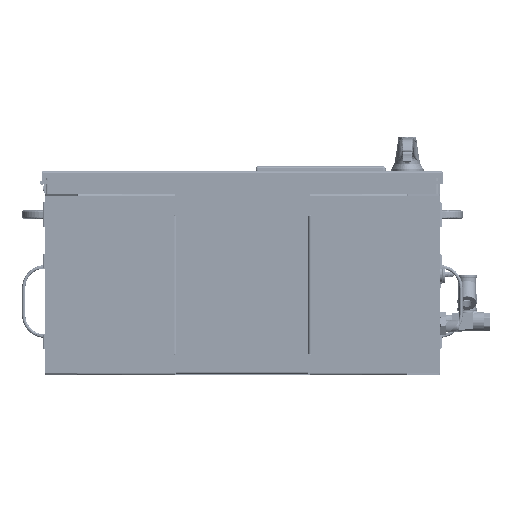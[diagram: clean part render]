
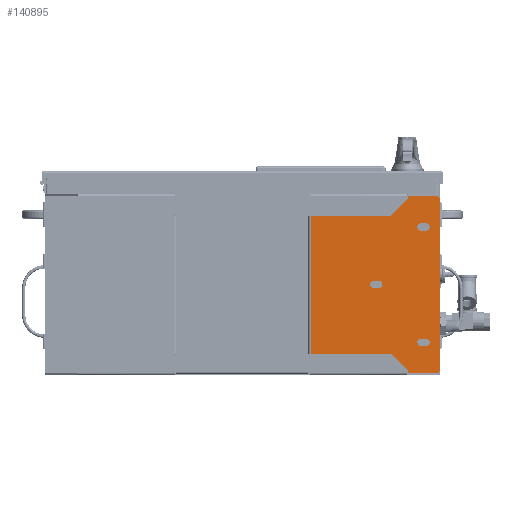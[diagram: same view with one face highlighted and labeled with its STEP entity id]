
A CAD part, front view. The second image highlights one B-rep face of the part: STEP entity #140895.
In plain terms, the highlighted planar face has unit normal (0, -1, 0).
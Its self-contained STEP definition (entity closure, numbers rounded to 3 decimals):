
#8581=FACE_BOUND('',#22103,.T.);
#8582=FACE_BOUND('',#22104,.T.);
#8583=FACE_BOUND('',#22105,.T.);
#14508=FACE_OUTER_BOUND('',#22102,.T.);
#22102=EDGE_LOOP('',(#116978,#116979,#116980,#116981,#116982,#116983,#116984,
#116985,#116986,#116987,#116988,#116989));
#22103=EDGE_LOOP('',(#116990,#116991,#116992,#116993));
#22104=EDGE_LOOP('',(#116994,#116995,#116996,#116997));
#22105=EDGE_LOOP('',(#116998,#116999,#117000,#117001));
#27107=CIRCLE('',#150492,0.25);
#27108=CIRCLE('',#150493,0.25);
#27109=CIRCLE('',#150494,0.219);
#27110=CIRCLE('',#150495,0.219);
#27111=CIRCLE('',#150496,0.219);
#27112=CIRCLE('',#150497,0.219);
#27113=CIRCLE('',#150498,0.219);
#27114=CIRCLE('',#150499,0.219);
#36591=LINE('',#276199,#48832);
#36592=LINE('',#276205,#48833);
#36595=LINE('',#276215,#48836);
#36596=LINE('',#276219,#48837);
#36597=LINE('',#276223,#48838);
#36598=LINE('',#276225,#48839);
#36599=LINE('',#276226,#48840);
#36600=LINE('',#276227,#48841);
#36601=LINE('',#276229,#48842);
#36602=LINE('',#276230,#48843);
#36603=LINE('',#276235,#48844);
#36604=LINE('',#276238,#48845);
#36605=LINE('',#276243,#48846);
#36606=LINE('',#276246,#48847);
#36607=LINE('',#276251,#48848);
#36608=LINE('',#276254,#48849);
#48832=VECTOR('',#177583,39.37);
#48833=VECTOR('',#177590,39.37);
#48836=VECTOR('',#177599,39.37);
#48837=VECTOR('',#177602,39.37);
#48838=VECTOR('',#177605,39.37);
#48839=VECTOR('',#177606,39.37);
#48840=VECTOR('',#177607,39.37);
#48841=VECTOR('',#177608,39.37);
#48842=VECTOR('',#177609,39.37);
#48843=VECTOR('',#177610,39.37);
#48844=VECTOR('',#177613,39.37);
#48845=VECTOR('',#177616,39.37);
#48846=VECTOR('',#177619,39.37);
#48847=VECTOR('',#177622,39.37);
#48848=VECTOR('',#177625,39.37);
#48849=VECTOR('',#177628,39.37);
#62057=VERTEX_POINT('',#276196);
#62058=VERTEX_POINT('',#276198);
#62059=VERTEX_POINT('',#276203);
#62060=VERTEX_POINT('',#276204);
#62063=VERTEX_POINT('',#276213);
#62064=VERTEX_POINT('',#276214);
#62065=VERTEX_POINT('',#276216);
#62066=VERTEX_POINT('',#276218);
#62067=VERTEX_POINT('',#276220);
#62068=VERTEX_POINT('',#276222);
#62069=VERTEX_POINT('',#276224);
#62070=VERTEX_POINT('',#276228);
#62071=VERTEX_POINT('',#276231);
#62072=VERTEX_POINT('',#276232);
#62073=VERTEX_POINT('',#276234);
#62074=VERTEX_POINT('',#276236);
#62075=VERTEX_POINT('',#276239);
#62076=VERTEX_POINT('',#276240);
#62077=VERTEX_POINT('',#276242);
#62078=VERTEX_POINT('',#276244);
#62079=VERTEX_POINT('',#276247);
#62080=VERTEX_POINT('',#276248);
#62081=VERTEX_POINT('',#276250);
#62082=VERTEX_POINT('',#276252);
#81350=EDGE_CURVE('',#62058,#62057,#36591,.T.);
#81353=EDGE_CURVE('',#62059,#62060,#36592,.T.);
#81358=EDGE_CURVE('',#62063,#62064,#36595,.T.);
#81359=EDGE_CURVE('',#62064,#62065,#27107,.T.);
#81360=EDGE_CURVE('',#62065,#62066,#36596,.T.);
#81361=EDGE_CURVE('',#62066,#62067,#27108,.T.);
#81362=EDGE_CURVE('',#62067,#62068,#36597,.T.);
#81363=EDGE_CURVE('',#62068,#62069,#36598,.T.);
#81364=EDGE_CURVE('',#62069,#62059,#36599,.F.);
#81365=EDGE_CURVE('',#62060,#62058,#36600,.T.);
#81366=EDGE_CURVE('',#62057,#62070,#36601,.F.);
#81367=EDGE_CURVE('',#62070,#62063,#36602,.T.);
#81368=EDGE_CURVE('',#62071,#62072,#27109,.T.);
#81369=EDGE_CURVE('',#62073,#62071,#36603,.T.);
#81370=EDGE_CURVE('',#62074,#62073,#27110,.T.);
#81371=EDGE_CURVE('',#62072,#62074,#36604,.T.);
#81372=EDGE_CURVE('',#62075,#62076,#27111,.T.);
#81373=EDGE_CURVE('',#62077,#62075,#36605,.T.);
#81374=EDGE_CURVE('',#62078,#62077,#27112,.T.);
#81375=EDGE_CURVE('',#62076,#62078,#36606,.T.);
#81376=EDGE_CURVE('',#62079,#62080,#27113,.T.);
#81377=EDGE_CURVE('',#62081,#62079,#36607,.T.);
#81378=EDGE_CURVE('',#62082,#62081,#27114,.T.);
#81379=EDGE_CURVE('',#62080,#62082,#36608,.T.);
#116978=ORIENTED_EDGE('',*,*,#81358,.T.);
#116979=ORIENTED_EDGE('',*,*,#81359,.T.);
#116980=ORIENTED_EDGE('',*,*,#81360,.T.);
#116981=ORIENTED_EDGE('',*,*,#81361,.T.);
#116982=ORIENTED_EDGE('',*,*,#81362,.T.);
#116983=ORIENTED_EDGE('',*,*,#81363,.T.);
#116984=ORIENTED_EDGE('',*,*,#81364,.T.);
#116985=ORIENTED_EDGE('',*,*,#81353,.T.);
#116986=ORIENTED_EDGE('',*,*,#81365,.T.);
#116987=ORIENTED_EDGE('',*,*,#81350,.T.);
#116988=ORIENTED_EDGE('',*,*,#81366,.T.);
#116989=ORIENTED_EDGE('',*,*,#81367,.T.);
#116990=ORIENTED_EDGE('',*,*,#81368,.F.);
#116991=ORIENTED_EDGE('',*,*,#81369,.F.);
#116992=ORIENTED_EDGE('',*,*,#81370,.F.);
#116993=ORIENTED_EDGE('',*,*,#81371,.F.);
#116994=ORIENTED_EDGE('',*,*,#81372,.F.);
#116995=ORIENTED_EDGE('',*,*,#81373,.F.);
#116996=ORIENTED_EDGE('',*,*,#81374,.F.);
#116997=ORIENTED_EDGE('',*,*,#81375,.F.);
#116998=ORIENTED_EDGE('',*,*,#81376,.F.);
#116999=ORIENTED_EDGE('',*,*,#81377,.F.);
#117000=ORIENTED_EDGE('',*,*,#81378,.F.);
#117001=ORIENTED_EDGE('',*,*,#81379,.F.);
#128622=PLANE('',#150491);
#140895=ADVANCED_FACE('',(#14508,#8581,#8582,#8583),#128622,.T.);
#150491=AXIS2_PLACEMENT_3D('',#276212,#177597,#177598);
#150492=AXIS2_PLACEMENT_3D('',#276217,#177600,#177601);
#150493=AXIS2_PLACEMENT_3D('',#276221,#177603,#177604);
#150494=AXIS2_PLACEMENT_3D('',#276233,#177611,#177612);
#150495=AXIS2_PLACEMENT_3D('',#276237,#177614,#177615);
#150496=AXIS2_PLACEMENT_3D('',#276241,#177617,#177618);
#150497=AXIS2_PLACEMENT_3D('',#276245,#177620,#177621);
#150498=AXIS2_PLACEMENT_3D('',#276249,#177623,#177624);
#150499=AXIS2_PLACEMENT_3D('',#276253,#177626,#177627);
#177583=DIRECTION('',(1.,0.,0.));
#177590=DIRECTION('',(-1.,0.,0.));
#177597=DIRECTION('center_axis',(0.,-1.,0.));
#177598=DIRECTION('ref_axis',(1.,0.,0.));
#177599=DIRECTION('',(1.,0.,0.));
#177600=DIRECTION('center_axis',(0.,-1.,0.));
#177601=DIRECTION('ref_axis',(1.,0.,0.));
#177602=DIRECTION('',(0.,0.,1.));
#177603=DIRECTION('center_axis',(0.,-1.,0.));
#177604=DIRECTION('ref_axis',(1.,0.,0.));
#177605=DIRECTION('',(-1.,0.,0.));
#177606=DIRECTION('',(0.,0.,-1.));
#177607=DIRECTION('',(0.707,0.,0.707));
#177608=DIRECTION('',(0.,0.,-1.));
#177609=DIRECTION('',(-0.707,0.,0.707));
#177610=DIRECTION('',(0.,0.,-1.));
#177611=DIRECTION('center_axis',(0.,-1.,0.));
#177612=DIRECTION('ref_axis',(0.,0.,
1.));
#177613=DIRECTION('',(-1.,0.,0.));
#177614=DIRECTION('center_axis',(0.,-1.,0.));
#177615=DIRECTION('ref_axis',(0.,0.,
-1.));
#177616=DIRECTION('',(1.,0.,0.));
#177617=DIRECTION('center_axis',(0.,-1.,0.));
#177618=DIRECTION('ref_axis',(1.,0.,0.));
#177619=DIRECTION('',(-1.,0.,0.));
#177620=DIRECTION('center_axis',(0.,-1.,0.));
#177621=DIRECTION('ref_axis',(-1.,0.,0.));
#177622=DIRECTION('',(1.,0.,0.));
#177623=DIRECTION('center_axis',(0.,-1.,0.));
#177624=DIRECTION('ref_axis',(1.,0.,0.));
#177625=DIRECTION('',(-1.,0.,0.));
#177626=DIRECTION('center_axis',(0.,-1.,0.));
#177627=DIRECTION('ref_axis',(0.,0.,
-1.));
#177628=DIRECTION('',(1.,0.,0.));
#276196=CARTESIAN_POINT('',(21.,0.,1.312));
#276198=CARTESIAN_POINT('',(16.143,0.,1.312));
#276199=CARTESIAN_POINT('',(16.094,0.,1.312));
#276203=CARTESIAN_POINT('',(21.,0.,9.688));
#276204=CARTESIAN_POINT('',(16.143,0.,9.688));
#276205=CARTESIAN_POINT('',(16.094,0.,9.688));
#276212=CARTESIAN_POINT('Origin',(16.094,0.,
10.896));
#276213=CARTESIAN_POINT('',(22.063,0.,0.104));
#276214=CARTESIAN_POINT('',(23.75,0.,0.104));
#276215=CARTESIAN_POINT('',(22.063,0.,0.104));
#276216=CARTESIAN_POINT('',(24.,0.,0.354));
#276217=CARTESIAN_POINT('Origin',(23.75,0.,0.354));
#276218=CARTESIAN_POINT('',(24.,0.,10.646));
#276219=CARTESIAN_POINT('',(24.,0.,0.104));
#276220=CARTESIAN_POINT('',(23.75,0.,10.896));
#276221=CARTESIAN_POINT('Origin',(23.75,0.,10.646));
#276222=CARTESIAN_POINT('',(22.063,0.,10.896));
#276223=CARTESIAN_POINT('',(22.063,0.,10.896));
#276224=CARTESIAN_POINT('',(22.063,0.,10.751));
#276225=CARTESIAN_POINT('',(22.063,0.,9.688));
#276226=CARTESIAN_POINT('',(21.,0.,9.688));
#276227=CARTESIAN_POINT('',(16.143,0.,9.688));
#276228=CARTESIAN_POINT('',(22.063,0.,0.25));
#276229=CARTESIAN_POINT('',(22.063,0.,0.25));
#276230=CARTESIAN_POINT('',(22.063,0.,1.312));
#276231=CARTESIAN_POINT('',(22.844,0.,9.219));
#276232=CARTESIAN_POINT('',(22.844,0.,8.781));
#276233=CARTESIAN_POINT('Origin',(22.844,0.,9.));
#276234=CARTESIAN_POINT('',(23.156,0.,9.219));
#276235=CARTESIAN_POINT('',(23.156,0.,9.219));
#276236=CARTESIAN_POINT('',(23.156,0.,8.781));
#276237=CARTESIAN_POINT('Origin',(23.156,0.,9.));
#276238=CARTESIAN_POINT('',(23.156,0.,8.781));
#276239=CARTESIAN_POINT('',(22.844,0.,2.219));
#276240=CARTESIAN_POINT('',(22.844,0.,1.781));
#276241=CARTESIAN_POINT('Origin',(22.844,0.,2.));
#276242=CARTESIAN_POINT('',(23.156,0.,2.219));
#276243=CARTESIAN_POINT('',(23.156,0.,2.219));
#276244=CARTESIAN_POINT('',(23.156,0.,1.781));
#276245=CARTESIAN_POINT('Origin',(23.156,0.,2.));
#276246=CARTESIAN_POINT('',(23.156,0.,1.781));
#276247=CARTESIAN_POINT('',(19.969,0.,5.719));
#276248=CARTESIAN_POINT('',(19.969,0.,5.281));
#276249=CARTESIAN_POINT('Origin',(19.969,0.,5.5));
#276250=CARTESIAN_POINT('',(20.281,0.,5.719));
#276251=CARTESIAN_POINT('',(20.281,0.,5.719));
#276252=CARTESIAN_POINT('',(20.281,0.,5.281));
#276253=CARTESIAN_POINT('Origin',(20.281,0.,5.5));
#276254=CARTESIAN_POINT('',(20.281,0.,5.281));
